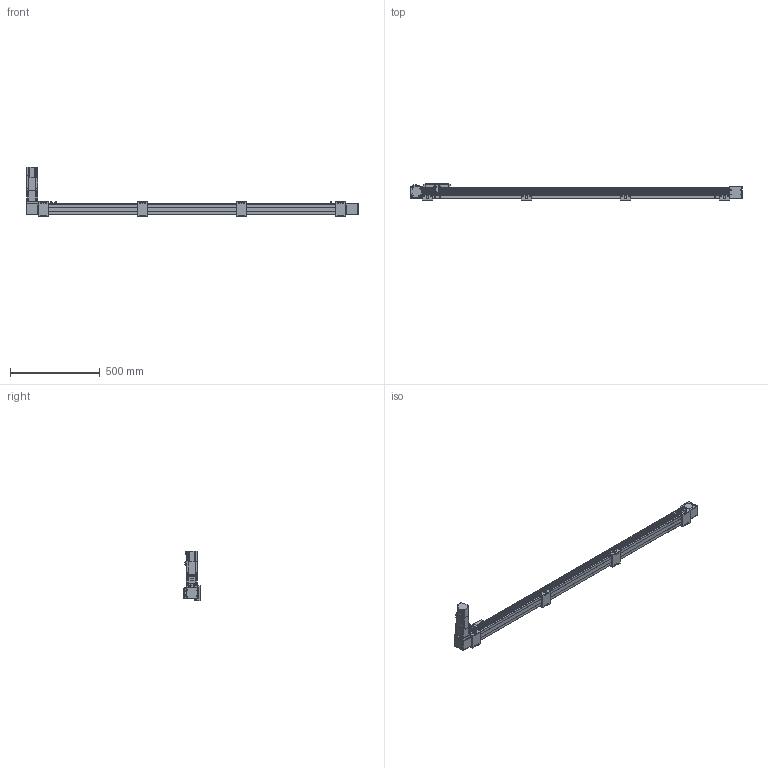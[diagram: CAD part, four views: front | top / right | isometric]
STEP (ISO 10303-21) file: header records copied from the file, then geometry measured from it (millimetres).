
FILE_DESCRIPTION(/* description */ ('STEP AP203'),/* implementation_level */ '2;1');
FILE_NAME(/* name */ 'SK60-P13-S1550-BL-T40-C1-N(0)',/* time_stamp */ '2023-04-06T03:37:13+02:00',/* author */ ('License CC BY-ND 4.0'),/* organization */ ('CADENAS'),/* preprocessor_version */ 'ST-DEVELOPER v19.3',/* originating_system */ 'PARTsolutions',/* authorisation */ ' ');
FILE_SCHEMA (('CONFIG_CONTROL_DESIGN'));
Length unit declared in the file: millimetre
Products named in the file (11): SK60-P13-S1550-BL-T40-C1-N(0); PSC140-sensor; SK60-S450_seat; SK60-S450-BL-C1_slider; SK60_body3; SK60_body6; SK60-BL_body2; T40-p1; SK60_body5; SK60_body4; SK60-S1550-BL-C1_body
Assembly tree (19 placements, depth 2):
  SK60-P13-S1550-BL-T40-C1-N(0)
    PSC140-sensor  x3
    SK60-S450_seat  x4
    SK60-S450-BL-C1_slider
    SK60_body3  x3
    SK60_body6  x2
    SK60-BL_body2  x2
    T40-p1
    SK60_body5
    SK60_body4
    SK60-S1550-BL-C1_body
Bounding box: 1850 x 90 x 278.2 mm (x, y, z)
Volume: 6921034.7 mm3; surface area: 891664.9 mm2
Topology: 19 solids, 23 shells, 922 faces, 2305 edges, 1522 vertices
Faces by surface type: plane 592, cylinder 298, cone 30, torus 2
Full cylindrical faces by diameter (mm): 2.8 x3, 3.3 x4, 4.2 x8, 4.5 x26, 4.6 x3, 4.917 x24, 5 x2, 5.478 x4, 5.5 x27, 6.5 x8, 8 x4, 8.5 x4, 9.988 x4, 10 x16, 13.556 x1, 14 x1, 14.586 x1, 19.692 x1, 38.432 x2, 43 x1, 44 x3, 47 x2, 50 x2
Entity records: 19387 total; most frequent: DIRECTION 3296, CARTESIAN_POINT 3291, ORIENTED_EDGE 3050, EDGE_CURVE 1525, AXIS2_PLACEMENT_3D 1102, LINE 1092, VECTOR 1092, VERTEX_POINT 1077
